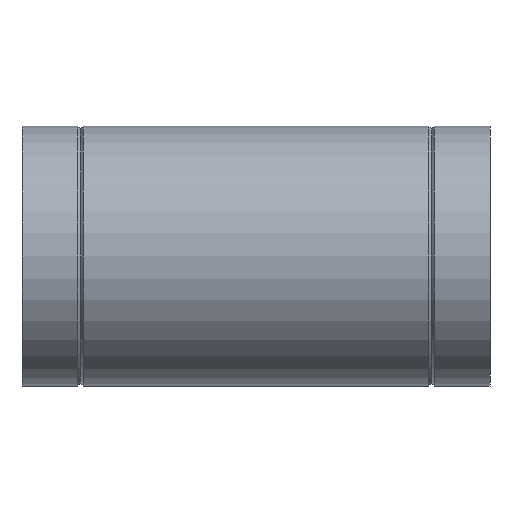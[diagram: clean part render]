
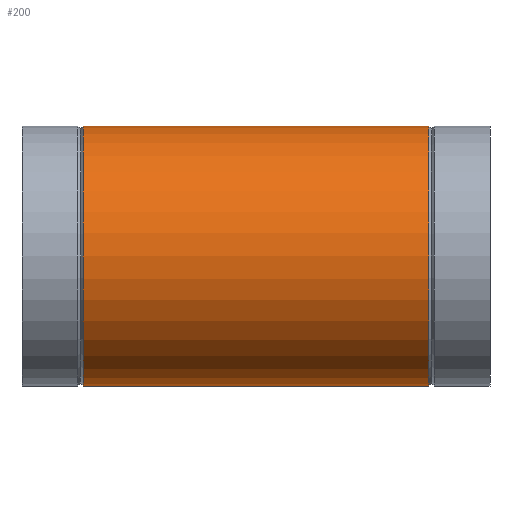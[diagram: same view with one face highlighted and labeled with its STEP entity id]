
A CAD part, left-side view. The second image highlights one B-rep face of the part: STEP entity #200.
In plain terms, the highlighted cylindrical face has radius 100 mm (diameter 200 mm), a full revolution.
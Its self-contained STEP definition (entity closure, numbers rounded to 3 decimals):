
#15=B_SPLINE_CURVE_WITH_KNOTS($,3,(#325,#326,#327,#328,#329,#330,#331,#332,
#333,#334,#335,#336,#337,#338,#339,#340,#341,#342,#343,#344,#345,#346,#347,
#348,#349,#350,#351,#352,#353,#354,#355,#356,#357,#358,#359,#360,#361,#362,
#363,#364,#365,#366,#367,#368,#369,#370,#371,#372,#373,#374,#375,#376,#377,
#378,#379,#380,#381,#382,#383,#384,#385,#386,#387,#388,#389,#390,#391,#392,
#393,#394),.UNSPECIFIED.,.T.,.F.,(4,2,2,2,2,2,2,2,2,2,2,2,2,2,2,2,2,2,2,
2,2,2,2,2,2,2,2,2,2,2,2,2,2,2,4),(0.,1.657,3.315,
4.972,6.63,8.219,9.809,11.399,
12.989,14.579,16.169,17.759,19.348,
21.006,22.663,24.321,25.978,26.79,
27.603,29.228,30.853,32.477,34.067,
35.656,37.245,38.835,40.424,42.013,
43.602,45.192,46.816,48.441,50.066,
50.879,51.691),.UNSPECIFIED.);
#17=CYLINDRICAL_SURFACE($,#222,100.);
#26=FACE_BOUND($,#63,.T.);
#27=FACE_BOUND($,#64,.T.);
#48=FACE_OUTER_BOUND($,#62,.T.);
#62=EDGE_LOOP($,(#145));
#63=EDGE_LOOP($,(#146));
#64=EDGE_LOOP($,(#147));
#94=CIRCLE($,#221,100.);
#95=CIRCLE($,#223,100.);
#109=VERTEX_POINT($,#319);
#110=VERTEX_POINT($,#322);
#111=VERTEX_POINT($,#324);
#126=EDGE_CURVE($,#109,#109,#94,.T.);
#127=EDGE_CURVE($,#110,#110,#95,.T.);
#128=EDGE_CURVE($,#111,#111,#15,.T.);
#145=ORIENTED_EDGE($,*,*,#127,.T.);
#146=ORIENTED_EDGE($,*,*,#128,.T.);
#147=ORIENTED_EDGE($,*,*,#126,.T.);
#200=ADVANCED_FACE($,(#48,#26,#27),#17,.T.);
#221=AXIS2_PLACEMENT_3D($,#320,#258,#259);
#222=AXIS2_PLACEMENT_3D($,#321,#260,#261);
#223=AXIS2_PLACEMENT_3D($,#323,#262,#263);
#258=DIRECTION('center_axis',(0.,-1.,0.));
#259=DIRECTION('ref_axis',(1.,0.,0.));
#260=DIRECTION('center_axis',(0.,1.,0.));
#261=DIRECTION('ref_axis',(1.,0.,0.));
#262=DIRECTION('center_axis',(0.,1.,0.));
#263=DIRECTION('ref_axis',(1.,0.,0.));
#319=CARTESIAN_POINT('',(100.,313.,0.));
#320=CARTESIAN_POINT('Origin',(0.,313.,0.));
#321=CARTESIAN_POINT('Origin',(0.,0.,0.));
#322=CARTESIAN_POINT('',(-100.,47.,0.));
#323=CARTESIAN_POINT('Origin',(0.,47.,0.));
#324=CARTESIAN_POINT('',(60.,181.571,80.));
#325=CARTESIAN_POINT('Ctrl Pts',(60.,181.571,80.));
#326=CARTESIAN_POINT('Ctrl Pts',(60.,187.096,80.));
#327=CARTESIAN_POINT('Ctrl Pts',(60.783,192.571,79.426));
#328=CARTESIAN_POINT('Ctrl Pts',(63.538,203.187,77.24));
#329=CARTESIAN_POINT('Ctrl Pts',(65.495,208.331,75.629));
#330=CARTESIAN_POINT('Ctrl Pts',(69.979,218.114,71.499));
#331=CARTESIAN_POINT('Ctrl Pts',(72.504,222.758,68.978));
#332=CARTESIAN_POINT('Ctrl Pts',(77.598,231.374,63.193));
#333=CARTESIAN_POINT('Ctrl Pts',(80.167,235.344,59.927));
#334=CARTESIAN_POINT('Ctrl Pts',(84.851,242.29,53.073));
#335=CARTESIAN_POINT('Ctrl Pts',(87.157,245.55,49.254));
#336=CARTESIAN_POINT('Ctrl Pts',(91.41,251.407,40.822));
#337=CARTESIAN_POINT('Ctrl Pts',(93.356,254.003,36.21));
#338=CARTESIAN_POINT('Ctrl Pts',(96.58,258.247,26.436));
#339=CARTESIAN_POINT('Ctrl Pts',(97.86,259.9,21.263));
#340=CARTESIAN_POINT('Ctrl Pts',(99.57,262.1,10.695));
#341=CARTESIAN_POINT('Ctrl Pts',(100.,262.646,5.299));
#342=CARTESIAN_POINT('Ctrl Pts',(100.,262.646,-5.299));
#343=CARTESIAN_POINT('Ctrl Pts',(99.57,262.1,-10.695));
#344=CARTESIAN_POINT('Ctrl Pts',(97.86,259.9,-21.263));
#345=CARTESIAN_POINT('Ctrl Pts',(96.58,258.247,-26.436));
#346=CARTESIAN_POINT('Ctrl Pts',(93.356,254.003,-36.21));
#347=CARTESIAN_POINT('Ctrl Pts',(91.41,251.407,-40.822));
#348=CARTESIAN_POINT('Ctrl Pts',(87.157,245.55,-49.254));
#349=CARTESIAN_POINT('Ctrl Pts',(84.851,242.29,-53.073));
#350=CARTESIAN_POINT('Ctrl Pts',(80.167,235.344,-59.927));
#351=CARTESIAN_POINT('Ctrl Pts',(77.598,231.374,-63.193));
#352=CARTESIAN_POINT('Ctrl Pts',(72.504,222.758,-68.978));
#353=CARTESIAN_POINT('Ctrl Pts',(69.979,218.114,-71.499));
#354=CARTESIAN_POINT('Ctrl Pts',(65.495,208.331,-75.629));
#355=CARTESIAN_POINT('Ctrl Pts',(63.538,203.187,-77.24));
#356=CARTESIAN_POINT('Ctrl Pts',(60.783,192.571,-79.426));
#357=CARTESIAN_POINT('Ctrl Pts',(60.,187.096,-80.));
#358=CARTESIAN_POINT('Ctrl Pts',(60.,178.863,-80.));
#359=CARTESIAN_POINT('Ctrl Pts',(60.185,176.165,-79.862));
#360=CARTESIAN_POINT('Ctrl Pts',(60.901,170.824,-79.318));
#361=CARTESIAN_POINT('Ctrl Pts',(61.431,168.181,-78.911));
#362=CARTESIAN_POINT('Ctrl Pts',(63.459,160.381,-77.304));
#363=CARTESIAN_POINT('Ctrl Pts',(65.392,155.351,-75.716));
#364=CARTESIAN_POINT('Ctrl Pts',(69.84,145.817,-71.634));
#365=CARTESIAN_POINT('Ctrl Pts',(72.352,141.305,-69.136));
#366=CARTESIAN_POINT('Ctrl Pts',(77.426,132.956,-63.402));
#367=CARTESIAN_POINT('Ctrl Pts',(79.987,129.12,-60.164));
#368=CARTESIAN_POINT('Ctrl Pts',(84.701,122.361,-53.317));
#369=CARTESIAN_POINT('Ctrl Pts',(87.04,119.172,-49.464));
#370=CARTESIAN_POINT('Ctrl Pts',(91.347,113.461,-40.967));
#371=CARTESIAN_POINT('Ctrl Pts',(93.314,110.94,-36.323));
#372=CARTESIAN_POINT('Ctrl Pts',(96.565,106.828,-26.494));
#373=CARTESIAN_POINT('Ctrl Pts',(97.853,105.234,-21.299));
#374=CARTESIAN_POINT('Ctrl Pts',(99.571,103.115,-10.701));
#375=CARTESIAN_POINT('Ctrl Pts',(100.,102.591,-5.298));
#376=CARTESIAN_POINT('Ctrl Pts',(100.,102.591,5.298));
#377=CARTESIAN_POINT('Ctrl Pts',(99.571,103.115,10.701));
#378=CARTESIAN_POINT('Ctrl Pts',(97.853,105.234,21.299));
#379=CARTESIAN_POINT('Ctrl Pts',(96.565,106.828,26.494));
#380=CARTESIAN_POINT('Ctrl Pts',(93.314,110.94,36.323));
#381=CARTESIAN_POINT('Ctrl Pts',(91.347,113.461,40.967));
#382=CARTESIAN_POINT('Ctrl Pts',(87.04,119.172,49.464));
#383=CARTESIAN_POINT('Ctrl Pts',(84.701,122.361,53.317));
#384=CARTESIAN_POINT('Ctrl Pts',(79.987,129.12,60.164));
#385=CARTESIAN_POINT('Ctrl Pts',(77.426,132.956,63.402));
#386=CARTESIAN_POINT('Ctrl Pts',(72.352,141.305,69.136));
#387=CARTESIAN_POINT('Ctrl Pts',(69.84,145.817,71.634));
#388=CARTESIAN_POINT('Ctrl Pts',(65.392,155.351,75.716));
#389=CARTESIAN_POINT('Ctrl Pts',(63.459,160.381,77.304));
#390=CARTESIAN_POINT('Ctrl Pts',(61.431,168.181,78.911));
#391=CARTESIAN_POINT('Ctrl Pts',(60.901,170.824,79.318));
#392=CARTESIAN_POINT('Ctrl Pts',(60.185,176.165,79.862));
#393=CARTESIAN_POINT('Ctrl Pts',(60.,178.863,80.));
#394=CARTESIAN_POINT('Ctrl Pts',(60.,181.571,80.));
